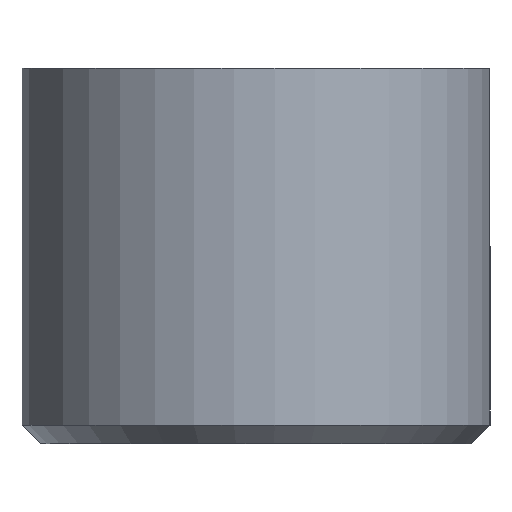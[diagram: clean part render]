
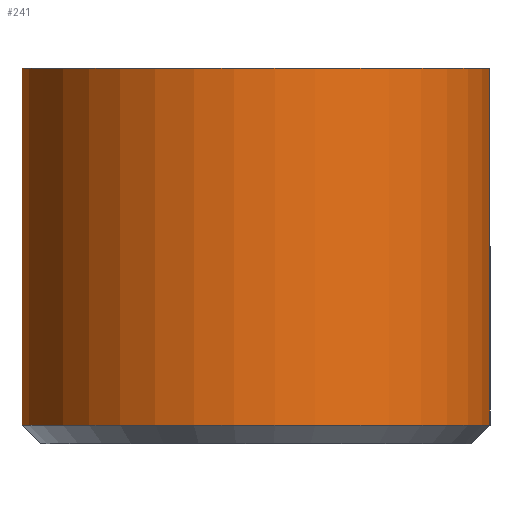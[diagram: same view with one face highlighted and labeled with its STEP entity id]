
A CAD part, front view. The second image highlights one B-rep face of the part: STEP entity #241.
In plain terms, the highlighted cylindrical face has radius 7.938 mm (diameter 15.875 mm), a partial arc.
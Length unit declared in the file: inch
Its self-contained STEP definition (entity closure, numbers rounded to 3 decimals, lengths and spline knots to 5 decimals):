
#6 = CARTESIAN_POINT ( 'NONE',  ( 0.31113, -0.02918, -0.475 ) ) ;
#27 = EDGE_CURVE ( 'NONE', #668, #442, #640, .T. ) ;
#43 = DIRECTION ( 'NONE',  ( -0.996, 0.093, 0. ) ) ;
#49 = DIRECTION ( 'NONE',  ( 0.996, -0.093, 0. ) ) ;
#75 = LINE ( 'NONE', #418, #260 ) ;
#136 = AXIS2_PLACEMENT_3D ( 'NONE', #547, #434, #49 ) ;
#141 = ORIENTED_EDGE ( 'NONE', *, *, #273, .T. ) ;
#151 = CARTESIAN_POINT ( 'NONE',  ( 0., 0., -0.5 ) ) ;
#157 = VERTEX_POINT ( 'NONE', #359 ) ;
#160 = LINE ( 'NONE', #708, #309 ) ;
#165 = DIRECTION ( 'NONE',  ( 0., 0., 1. ) ) ;
#168 = DIRECTION ( 'NONE',  ( 0.996, -0.093, 0. ) ) ;
#223 = ORIENTED_EDGE ( 'NONE', *, *, #27, .T. ) ;
#239 = AXIS2_PLACEMENT_3D ( 'NONE', #151, #295, #43 ) ;
#241 = ADVANCED_FACE ( 'NONE', ( #398 ), #453, .T. ) ;
#252 = EDGE_CURVE ( 'NONE', #668, #157, #160, .T. ) ;
#260 = VECTOR ( 'NONE', #382, 39.37008 ) ;
#273 = EDGE_CURVE ( 'NONE', #431, #157, #645, .T. ) ;
#295 = DIRECTION ( 'NONE',  ( 0., 0., 1. ) ) ;
#309 = VECTOR ( 'NONE', #371, 39.37008 ) ;
#359 = CARTESIAN_POINT ( 'NONE',  ( -0.31113, 0.02918, 0. ) ) ;
#371 = DIRECTION ( 'NONE',  ( 0., 0., 1. ) ) ;
#382 = DIRECTION ( 'NONE',  ( 0., 0., 1. ) ) ;
#398 = FACE_OUTER_BOUND ( 'NONE', #590, .T. ) ;
#418 = CARTESIAN_POINT ( 'NONE',  ( 0.31113, -0.02918, -0.5 ) ) ;
#431 = VERTEX_POINT ( 'NONE', #562 ) ;
#434 = DIRECTION ( 'NONE',  ( 0., 0., -1. ) ) ;
#442 = VERTEX_POINT ( 'NONE', #6 ) ;
#446 = ORIENTED_EDGE ( 'NONE', *, *, #534, .T. ) ;
#453 = CYLINDRICAL_SURFACE ( 'NONE', #239, 0.3125 ) ;
#459 = AXIS2_PLACEMENT_3D ( 'NONE', #504, #165, #168 ) ;
#504 = CARTESIAN_POINT ( 'NONE',  ( 0., 0., -0.475 ) ) ;
#534 = EDGE_CURVE ( 'NONE', #442, #431, #75, .T. ) ;
#547 = CARTESIAN_POINT ( 'NONE',  ( 0., 0., 0. ) ) ;
#562 = CARTESIAN_POINT ( 'NONE',  ( 0.31113, -0.02918, 0. ) ) ;
#590 = EDGE_LOOP ( 'NONE', ( #223, #446, #141, #729 ) ) ;
#603 = CARTESIAN_POINT ( 'NONE',  ( -0.31113, 0.02918, -0.475 ) ) ;
#640 = CIRCLE ( 'NONE', #459, 0.3125 ) ;
#645 = CIRCLE ( 'NONE', #136, 0.3125 ) ;
#668 = VERTEX_POINT ( 'NONE', #603 ) ;
#708 = CARTESIAN_POINT ( 'NONE',  ( -0.31113, 0.02918, -0.5 ) ) ;
#729 = ORIENTED_EDGE ( 'NONE', *, *, #252, .F. ) ;
